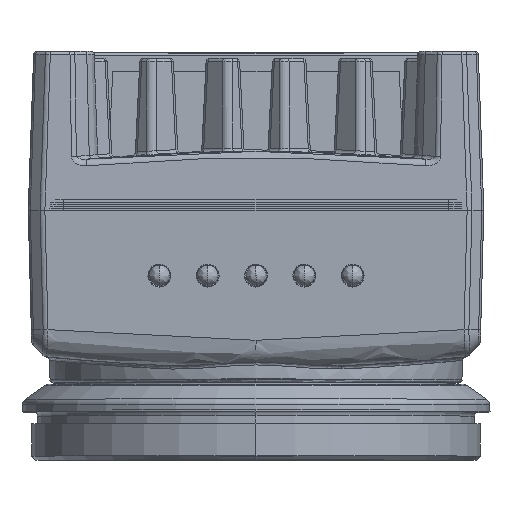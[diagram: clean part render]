
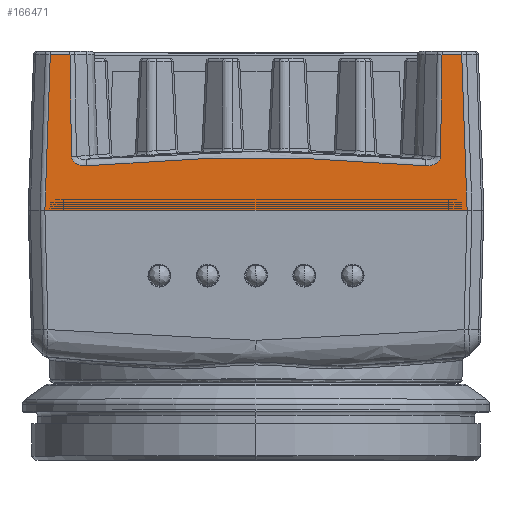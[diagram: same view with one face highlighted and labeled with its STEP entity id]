
A CAD part, top view. The second image highlights one B-rep face of the part: STEP entity #166471.
In plain terms, the highlighted planar face has unit normal (0, 0.035, 0.999).
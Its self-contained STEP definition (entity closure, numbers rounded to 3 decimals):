
#25079=CARTESIAN_POINT('',(30.585,21.,32.));
#25217=DIRECTION('',(-1.,0.,0.));
#25218=VECTOR('',#25217,61.17);
#25219=CARTESIAN_POINT('',(30.585,21.,32.));
#25220=LINE('',#25219,#25218);
#67020=DIRECTION('',(-0.035,-0.999,0.035));
#67021=VECTOR('',#67020,22.545);
#67022=CARTESIAN_POINT('',(-29.798,43.517,
31.214));
#67023=LINE('',#67022,#67021);
#67024=DIRECTION('',(-0.014,0.999,-0.035));
#67025=VECTOR('',#67024,14.767);
#67026=CARTESIAN_POINT('',(-26.734,28.761,
31.729));
#67027=LINE('',#67026,#67025);
#67028=CARTESIAN_POINT('',(0.,-240.098,
41.118));
#67029=DIRECTION('',(0.,0.035,0.999));
#67030=DIRECTION('',(0.091,0.995,-0.035));
#67031=AXIS2_PLACEMENT_3D('',#67028,#67029,#67030);
#67033=DIRECTION('',(-0.014,-0.999,0.035));
#67034=VECTOR('',#67033,14.767);
#67035=CARTESIAN_POINT('',(26.947,43.517,31.214));
#67036=LINE('',#67035,#67034);
#67037=DIRECTION('',(-0.035,0.999,-0.035));
#67038=VECTOR('',#67037,22.545);
#67039=CARTESIAN_POINT('',(30.585,21.,32.));
#67040=LINE('',#67039,#67038);
#67050=DIRECTION('',(1.,0.,0.));
#67051=VECTOR('',#67050,2.851);
#67052=CARTESIAN_POINT('',(-29.798,43.517,
31.214));
#67053=LINE('',#67052,#67051);
#67426=CARTESIAN_POINT('',(-26.734,28.761,
31.729));
#67427=CARTESIAN_POINT('',(-26.733,28.737,
31.73));
#67428=CARTESIAN_POINT('',(-26.731,28.688,
31.732));
#67429=CARTESIAN_POINT('',(-26.722,28.614,
31.734));
#67430=CARTESIAN_POINT('',(-26.708,28.541,
31.737));
#67431=CARTESIAN_POINT('',(-26.688,28.467,
31.739));
#67432=CARTESIAN_POINT('',(-26.663,28.393,
31.742));
#67433=CARTESIAN_POINT('',(-26.632,28.32,
31.744));
#67434=CARTESIAN_POINT('',(-26.596,28.25,
31.747));
#67435=CARTESIAN_POINT('',(-26.554,28.18,
31.749));
#67436=CARTESIAN_POINT('',(-26.505,28.11,
31.752));
#67437=CARTESIAN_POINT('',(-26.449,28.04,
31.754));
#67438=CARTESIAN_POINT('',(-26.387,27.973,
31.757));
#67439=CARTESIAN_POINT('',(-26.317,27.906,
31.759));
#67440=CARTESIAN_POINT('',(-26.239,27.841,
31.761));
#67441=CARTESIAN_POINT('',(-26.153,27.778,
31.763));
#67442=CARTESIAN_POINT('',(-26.06,27.718,
31.765));
#67443=CARTESIAN_POINT('',(-25.958,27.662,
31.767));
#67444=CARTESIAN_POINT('',(-25.847,27.609,
31.769));
#67445=CARTESIAN_POINT('',(-25.728,27.56,
31.771));
#67446=CARTESIAN_POINT('',(-25.6,27.516,
31.772));
#67447=CARTESIAN_POINT('',(-25.464,27.478,
31.774));
#67448=CARTESIAN_POINT('',(-25.321,27.447,
31.775));
#67449=CARTESIAN_POINT('',(-25.171,27.424,
31.776));
#67450=CARTESIAN_POINT('',(-25.016,27.408,
31.776));
#67451=CARTESIAN_POINT('',(-24.856,27.401,
31.776));
#67452=CARTESIAN_POINT('',(-24.693,27.402,
31.776));
#67453=CARTESIAN_POINT('',(-24.583,27.409,
31.776));
#67454=CARTESIAN_POINT('',(-24.528,27.414,
31.776));
#67505=CARTESIAN_POINT('',(24.528,27.414,31.776));
#67506=CARTESIAN_POINT('',(24.582,27.409,31.776));
#67507=CARTESIAN_POINT('',(24.69,27.402,31.776));
#67508=CARTESIAN_POINT('',(24.851,27.4,31.776));
#67509=CARTESIAN_POINT('',(25.012,27.408,31.776));
#67510=CARTESIAN_POINT('',(25.169,27.424,31.776));
#67511=CARTESIAN_POINT('',(25.319,27.447,31.775));
#67512=CARTESIAN_POINT('',(25.462,27.478,31.774));
#67513=CARTESIAN_POINT('',(25.598,27.516,31.772));
#67514=CARTESIAN_POINT('',(25.727,27.559,31.771));
#67515=CARTESIAN_POINT('',(25.845,27.608,31.769));
#67516=CARTESIAN_POINT('',(25.956,27.66,31.767));
#67517=CARTESIAN_POINT('',(26.059,27.718,31.765));
#67518=CARTESIAN_POINT('',(26.153,27.778,31.763));
#67519=CARTESIAN_POINT('',(26.239,27.841,31.761));
#67520=CARTESIAN_POINT('',(26.317,27.906,31.759));
#67521=CARTESIAN_POINT('',(26.386,27.972,31.757));
#67522=CARTESIAN_POINT('',(26.448,28.04,31.754));
#67523=CARTESIAN_POINT('',(26.504,28.109,31.752));
#67524=CARTESIAN_POINT('',(26.553,28.179,31.749));
#67525=CARTESIAN_POINT('',(26.596,28.25,31.747));
#67526=CARTESIAN_POINT('',(26.633,28.322,31.744));
#67527=CARTESIAN_POINT('',(26.663,28.394,31.742));
#67528=CARTESIAN_POINT('',(26.688,28.466,31.739));
#67529=CARTESIAN_POINT('',(26.708,28.539,31.737));
#67530=CARTESIAN_POINT('',(26.722,28.613,31.734));
#67531=CARTESIAN_POINT('',(26.731,28.688,31.732));
#67532=CARTESIAN_POINT('',(26.733,28.737,31.73));
#67533=CARTESIAN_POINT('',(26.734,28.761,31.729));
#67910=DIRECTION('',(1.,0.,0.));
#67911=VECTOR('',#67910,2.851);
#67912=CARTESIAN_POINT('',(26.947,43.517,31.214));
#67913=LINE('',#67912,#67911);
#74153=CARTESIAN_POINT('',(26.947,43.517,31.214));
#74154=VERTEX_POINT('',#74153);
#74157=CARTESIAN_POINT('',(29.798,43.517,31.214));
#74159=VERTEX_POINT('',#74157);
#74166=CARTESIAN_POINT('',(-29.798,43.517,
31.214));
#74167=CARTESIAN_POINT('',(-26.947,43.517,
31.214));
#74168=VERTEX_POINT('',#74166);
#74169=VERTEX_POINT('',#74167);
#74170=CARTESIAN_POINT('',(-26.734,28.761,
31.729));
#74171=VERTEX_POINT('',#74170);
#74172=VERTEX_POINT('',#67454);
#74173=CARTESIAN_POINT('',(24.528,27.414,31.776));
#74174=VERTEX_POINT('',#74173);
#74175=VERTEX_POINT('',#67533);
#83923=VERTEX_POINT('',#25079);
#83924=CARTESIAN_POINT('',(-30.585,21.,
32.));
#83925=VERTEX_POINT('',#83924);
#166448=CARTESIAN_POINT('',(33.,21.,32.));
#166449=DIRECTION('',(0.,0.035,0.999));
#166450=DIRECTION('',(0.,0.999,-0.035));
#166451=AXIS2_PLACEMENT_3D('',#166448,#166449,#166450);
#166452=PLANE('',#166451);
#166453=ORIENTED_EDGE('',*,*,#116284,.T.);
#166454=ORIENTED_EDGE('',*,*,#117793,.F.);
#166456=ORIENTED_EDGE('',*,*,#166455,.T.);
#166457=ORIENTED_EDGE('',*,*,#166438,.F.);
#166459=ORIENTED_EDGE('',*,*,#166458,.T.);
#166461=ORIENTED_EDGE('',*,*,#166460,.F.);
#166463=ORIENTED_EDGE('',*,*,#166462,.T.);
#166465=ORIENTED_EDGE('',*,*,#166464,.F.);
#166467=ORIENTED_EDGE('',*,*,#166466,.T.);
#166468=ORIENTED_EDGE('',*,*,#116111,.F.);
#166469=EDGE_LOOP('',(#166453,#166454,#166456,#166457,#166459,#166461,#166463,
#166465,#166467,#166468));
#166470=FACE_OUTER_BOUND('',#166469,.F.);
#166471=ADVANCED_FACE('',(#166470),#166452,.T.);
#67032=CIRCLE('',#67031,268.797);
#67455=B_SPLINE_CURVE_WITH_KNOTS('',3,(#67426,#67427,#67428,#67429,#67430,
#67431,#67432,#67433,#67434,#67435,#67436,#67437,#67438,#67439,#67440,#67441,
#67442,#67443,#67444,#67445,#67446,#67447,#67448,#67449,#67450,#67451,#67452,
#67453,#67454),.UNSPECIFIED.,.F.,.F.,(4,1,1,1,1,1,1,1,1,1,1,1,1,1,1,1,1,1,1,1,1,
1,1,1,1,1,4),(0.,0.038,0.077,0.115,
0.154,0.192,0.231,0.269,
0.308,0.346,0.385,0.423,
0.462,0.5,0.538,0.577,0.615,
0.654,0.692,0.731,0.769,
0.808,0.846,0.885,0.923,
0.962,1.),.UNSPECIFIED.);
#67534=B_SPLINE_CURVE_WITH_KNOTS('',3,(#67505,#67506,#67507,#67508,#67509,
#67510,#67511,#67512,#67513,#67514,#67515,#67516,#67517,#67518,#67519,#67520,
#67521,#67522,#67523,#67524,#67525,#67526,#67527,#67528,#67529,#67530,#67531,
#67532,#67533),.UNSPECIFIED.,.F.,.F.,(4,1,1,1,1,1,1,1,1,1,1,1,1,1,1,1,1,1,1,1,1,
1,1,1,1,1,4),(0.,0.038,0.077,0.115,
0.154,0.192,0.231,0.269,
0.308,0.346,0.385,0.423,
0.462,0.5,0.538,0.577,0.615,
0.654,0.692,0.731,0.769,
0.808,0.846,0.885,0.923,
0.962,1.),.UNSPECIFIED.);
#116111=EDGE_CURVE('',#83923,#74159,#67040,.T.);
#116284=EDGE_CURVE('',#83923,#83925,#25220,.T.);
#117793=EDGE_CURVE('',#74168,#83925,#67023,.T.);
#166438=EDGE_CURVE('',#74171,#74169,#67027,.T.);
#166455=EDGE_CURVE('',#74168,#74169,#67053,.T.);
#166458=EDGE_CURVE('',#74171,#74172,#67455,.T.);
#166460=EDGE_CURVE('',#74174,#74172,#67032,.T.);
#166462=EDGE_CURVE('',#74174,#74175,#67534,.T.);
#166464=EDGE_CURVE('',#74154,#74175,#67036,.T.);
#166466=EDGE_CURVE('',#74154,#74159,#67913,.T.);
